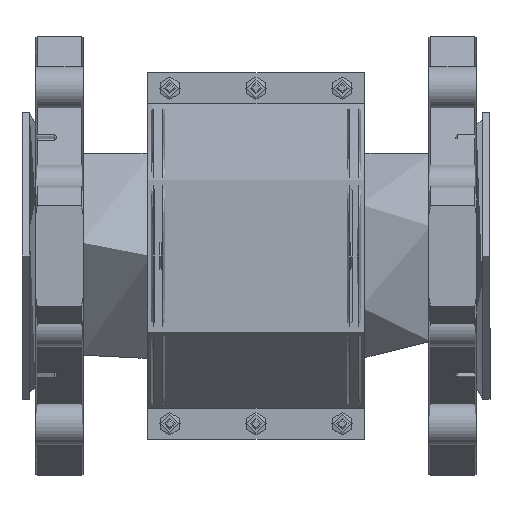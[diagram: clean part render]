
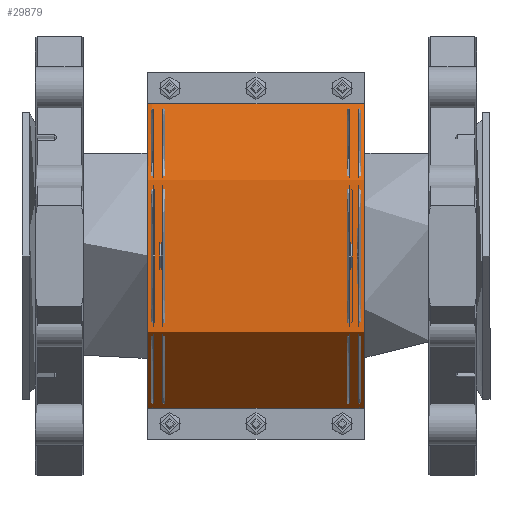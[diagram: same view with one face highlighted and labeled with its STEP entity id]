
A CAD part, front view. The second image highlights one B-rep face of the part: STEP entity #29879.
In plain terms, the highlighted cylindrical face has radius 79.5 mm (diameter 159 mm), a partial arc.
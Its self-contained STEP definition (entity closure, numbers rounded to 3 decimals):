
#29879=ADVANCED_FACE('',(#36759),#36761,.T.);
#36759=FACE_BOUND('',#36760,.T.);
#36760=EDGE_LOOP('',(#40700,#40701,#40702,#40703,#40704,#40705,#40706,#40707,#40708,
#40709));
#36761=CYLINDRICAL_SURFACE('',#36762,79.5);
#36762=AXIS2_PLACEMENT_3D('',#36763,#36764,#36765);
#36763=CARTESIAN_POINT('',(-56.5,-53.239,0.));
#36764=DIRECTION('',(1.,0.,0.));
#36765=DIRECTION('',(0.,0.,1.));
#40700=ORIENTED_EDGE('',*,*,#45641,.F.);
#40701=ORIENTED_EDGE('',*,*,#45642,.T.);
#40702=ORIENTED_EDGE('',*,*,#45643,.F.);
#40703=ORIENTED_EDGE('',*,*,#45644,.T.);
#40704=ORIENTED_EDGE('',*,*,#45615,.F.);
#40705=ORIENTED_EDGE('',*,*,#45613,.F.);
#40706=ORIENTED_EDGE('',*,*,#45624,.F.);
#40707=ORIENTED_EDGE('',*,*,#45645,.T.);
#40708=ORIENTED_EDGE('',*,*,#45646,.T.);
#40709=ORIENTED_EDGE('',*,*,#45647,.T.);
#45613=EDGE_CURVE('',#65827,#65829,#65830,.T.);
#45615=EDGE_CURVE('',#65829,#65832,#65833,.F.);
#45624=EDGE_CURVE('',#65847,#65827,#65849,.T.);
#45641=EDGE_CURVE('',#65878,#65879,#65880,.F.);
#45642=EDGE_CURVE('',#65878,#65881,#65882,.T.);
#45643=EDGE_CURVE('',#65883,#65881,#65884,.T.);
#45644=EDGE_CURVE('',#65883,#65832,#65885,.F.);
#45645=EDGE_CURVE('',#65847,#65886,#65887,.F.);
#45646=EDGE_CURVE('',#65886,#65888,#65889,.T.);
#45647=EDGE_CURVE('',#65888,#65879,#65890,.T.);
#65827=VERTEX_POINT('',#67677);
#65829=VERTEX_POINT('',#67681);
#65830=LINE('',#67682,#67683);
#65832=VERTEX_POINT('',#67688);
#65833=CIRCLE('',#67689,79.5);
#65847=VERTEX_POINT('',#67720);
#65849=CIRCLE('',#67724,79.5);
#65878=VERTEX_POINT('',#67799);
#65879=VERTEX_POINT('',#67800);
#65880=LINE('',#67801,#67802);
#65881=VERTEX_POINT('',#67804);
#65882=LINE('',#67805,#67806);
#65883=VERTEX_POINT('',#67808);
#65884=CIRCLE('',#67809,79.5);
#65885=LINE('',#67813,#67814);
#65886=VERTEX_POINT('',#67816);
#65887=LINE('',#67817,#67818);
#65888=VERTEX_POINT('',#67820);
#65889=CIRCLE('',#67821,79.5);
#65890=LINE('',#67825,#67826);
#67677=CARTESIAN_POINT('',(-54.,-55.239,79.475));
#67681=CARTESIAN_POINT('',(54.,-55.239,79.475));
#67682=CARTESIAN_POINT('',(-54.,-55.239,79.475));
#67683=VECTOR('',#67684,1.);
#67684=DIRECTION('',(1.,0.,0.));
#67688=CARTESIAN_POINT('',(54.,-54.239,79.494));
#67689=AXIS2_PLACEMENT_3D('',#67690,#67691,#67692);
#67690=CARTESIAN_POINT('',(54.,-53.239,0.));
#67691=DIRECTION('',(1.,0.,0.));
#67692=DIRECTION('',(0.,-0.013,1.));
#67720=CARTESIAN_POINT('',(-54.,-54.239,79.494));
#67724=AXIS2_PLACEMENT_3D('',#67725,#67726,#67727);
#67725=CARTESIAN_POINT('',(-54.,-53.239,0.));
#67726=DIRECTION('',(1.,0.,0.));
#67727=DIRECTION('',(0.,-0.013,1.));
#67799=CARTESIAN_POINT('',(54.,-54.239,-79.494));
#67800=CARTESIAN_POINT('',(-54.,-54.239,-79.494));
#67801=CARTESIAN_POINT('',(-54.,-54.239,-79.494));
#67802=VECTOR('',#67803,1.);
#67803=DIRECTION('',(1.,0.,0.));
#67804=CARTESIAN_POINT('',(56.5,-54.239,-79.494));
#67805=CARTESIAN_POINT('',(54.,-54.239,-79.494));
#67806=VECTOR('',#67807,1.);
#67807=DIRECTION('',(1.,0.,0.));
#67808=CARTESIAN_POINT('',(56.5,-54.239,79.494));
#67809=AXIS2_PLACEMENT_3D('',#67810,#67811,#67812);
#67810=CARTESIAN_POINT('',(56.5,-53.239,0.));
#67811=DIRECTION('',(1.,0.,0.));
#67812=DIRECTION('',(0.,-0.013,1.));
#67813=CARTESIAN_POINT('',(54.,-54.239,79.494));
#67814=VECTOR('',#67815,1.);
#67815=DIRECTION('',(1.,0.,0.));
#67816=CARTESIAN_POINT('',(-56.5,-54.239,79.494));
#67817=CARTESIAN_POINT('',(-56.5,-54.239,79.494));
#67818=VECTOR('',#67819,1.);
#67819=DIRECTION('',(1.,0.,0.));
#67820=CARTESIAN_POINT('',(-56.5,-54.239,-79.494));
#67821=AXIS2_PLACEMENT_3D('',#67822,#67823,#67824);
#67822=CARTESIAN_POINT('',(-56.5,-53.239,0.));
#67823=DIRECTION('',(1.,0.,0.));
#67824=DIRECTION('',(0.,-0.013,1.));
#67825=CARTESIAN_POINT('',(-56.5,-54.239,-79.494));
#67826=VECTOR('',#67827,1.);
#67827=DIRECTION('',(1.,0.,0.));
